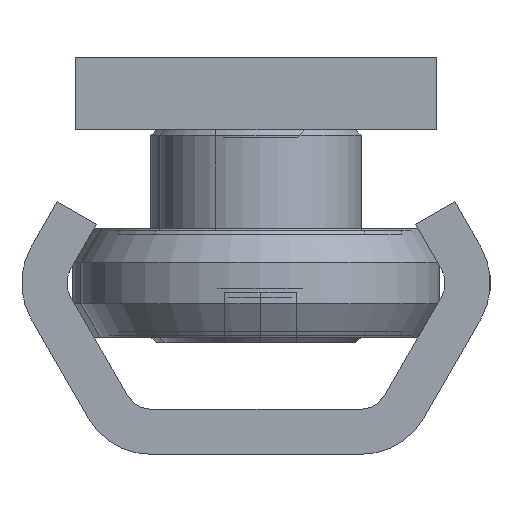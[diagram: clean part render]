
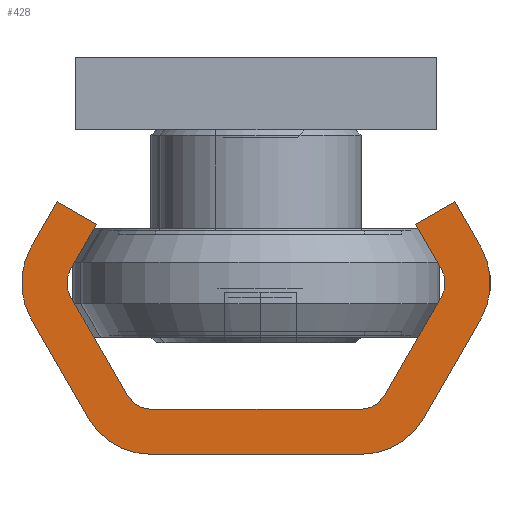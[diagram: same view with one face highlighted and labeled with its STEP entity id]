
A CAD part, left-side view. The second image highlights one B-rep face of the part: STEP entity #428.
In plain terms, the highlighted planar face has unit normal (-1, 0, 0).
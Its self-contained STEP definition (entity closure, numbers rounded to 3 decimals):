
#428 = ADVANCED_FACE( '', ( #956 ), #957, .F. );
#956 = FACE_OUTER_BOUND( '', #1706, .T. );
#957 = PLANE( '', #1707 );
#1706 = EDGE_LOOP( '', ( #2794, #2795, #2796, #2797, #2798, #2799, #2800, #2801, #2802, #2803, #2804, #2805, #2806, #2807, #2808, #2809, #2810, #2811, #2812, #2813 ) );
#1707 = AXIS2_PLACEMENT_3D( '', #2814, #2815, #2816 );
#2794 = ORIENTED_EDGE( '', *, *, #3959, .F. );
#2795 = ORIENTED_EDGE( '', *, *, #3960, .F. );
#2796 = ORIENTED_EDGE( '', *, *, #3961, .F. );
#2797 = ORIENTED_EDGE( '', *, *, #3737, .F. );
#2798 = ORIENTED_EDGE( '', *, *, #3962, .F. );
#2799 = ORIENTED_EDGE( '', *, *, #3786, .F. );
#2800 = ORIENTED_EDGE( '', *, *, #3963, .F. );
#2801 = ORIENTED_EDGE( '', *, *, #3964, .T. );
#2802 = ORIENTED_EDGE( '', *, *, #3965, .F. );
#2803 = ORIENTED_EDGE( '', *, *, #3966, .T. );
#2804 = ORIENTED_EDGE( '', *, *, #3937, .F. );
#2805 = ORIENTED_EDGE( '', *, *, #3967, .T. );
#2806 = ORIENTED_EDGE( '', *, *, #3968, .F. );
#2807 = ORIENTED_EDGE( '', *, *, #3796, .T. );
#2808 = ORIENTED_EDGE( '', *, *, #3969, .F. );
#2809 = ORIENTED_EDGE( '', *, *, #3970, .F. );
#2810 = ORIENTED_EDGE( '', *, *, #3971, .F. );
#2811 = ORIENTED_EDGE( '', *, *, #3972, .F. );
#2812 = ORIENTED_EDGE( '', *, *, #3973, .F. );
#2813 = ORIENTED_EDGE( '', *, *, #3974, .F. );
#2814 = CARTESIAN_POINT( '', ( 0., -5.825, -4. ) );
#2815 = DIRECTION( '', ( 1., 0., 0. ) );
#2816 = DIRECTION( '', ( 0., 0., -1. ) );
#3737 = EDGE_CURVE( '', #4261, #4262, #4263, .T. );
#3786 = EDGE_CURVE( '', #4349, #4350, #4351, .T. );
#3796 = EDGE_CURVE( '', #4365, #4366, #4367, .T. );
#3937 = EDGE_CURVE( '', #4605, #4606, #4607, .T. );
#3959 = EDGE_CURVE( '', #4636, #4637, #4638, .T. );
#3960 = EDGE_CURVE( '', #4639, #4636, #4640, .T. );
#3961 = EDGE_CURVE( '', #4262, #4639, #4641, .T. );
#3962 = EDGE_CURVE( '', #4350, #4261, #4642, .T. );
#3963 = EDGE_CURVE( '', #4643, #4349, #4644, .T. );
#3964 = EDGE_CURVE( '', #4643, #4645, #4646, .T. );
#3965 = EDGE_CURVE( '', #4647, #4645, #4648, .T. );
#3966 = EDGE_CURVE( '', #4647, #4606, #4649, .T. );
#3967 = EDGE_CURVE( '', #4605, #4650, #4651, .T. );
#3968 = EDGE_CURVE( '', #4365, #4650, #4652, .T. );
#3969 = EDGE_CURVE( '', #4653, #4366, #4654, .T. );
#3970 = EDGE_CURVE( '', #4655, #4653, #4656, .T. );
#3971 = EDGE_CURVE( '', #4657, #4655, #4658, .T. );
#3972 = EDGE_CURVE( '', #4659, #4657, #4660, .T. );
#3973 = EDGE_CURVE( '', #4661, #4659, #4662, .T. );
#3974 = EDGE_CURVE( '', #4637, #4661, #4663, .T. );
#4261 = VERTEX_POINT( '', #5013 );
#4262 = VERTEX_POINT( '', #5014 );
#4263 = CIRCLE( '', #5015, 4. );
#4349 = VERTEX_POINT( '', #5121 );
#4350 = VERTEX_POINT( '', #5122 );
#4351 = LINE( '', #5123, #5124 );
#4365 = VERTEX_POINT( '', #5140 );
#4366 = VERTEX_POINT( '', #5141 );
#4367 = CIRCLE( '', #5142, 1.5 );
#4605 = VERTEX_POINT( '', #5420 );
#4606 = VERTEX_POINT( '', #5421 );
#4607 = LINE( '', #5422, #5423 );
#4636 = VERTEX_POINT( '', #5461 );
#4637 = VERTEX_POINT( '', #5462 );
#4638 = LINE( '', #5463, #5464 );
#4639 = VERTEX_POINT( '', #5465 );
#4640 = CIRCLE( '', #5466, 4. );
#4641 = LINE( '', #5467, #5468 );
#4642 = LINE( '', #5469, #5470 );
#4643 = VERTEX_POINT( '', #5471 );
#4644 = LINE( '', #5472, #5473 );
#4645 = VERTEX_POINT( '', #5474 );
#4646 = CIRCLE( '', #5475, 1.5 );
#4647 = VERTEX_POINT( '', #5476 );
#4648 = LINE( '', #5477, #5478 );
#4649 = CIRCLE( '', #5479, 1.5 );
#4650 = VERTEX_POINT( '', #5480 );
#4651 = CIRCLE( '', #5481, 1.5 );
#4652 = LINE( '', #5482, #5483 );
#4653 = VERTEX_POINT( '', #5484 );
#4654 = LINE( '', #5485, #5486 );
#4655 = VERTEX_POINT( '', #5487 );
#4656 = LINE( '', #5488, #5489 );
#4657 = VERTEX_POINT( '', #5490 );
#4658 = LINE( '', #5491, #5492 );
#4659 = VERTEX_POINT( '', #5493 );
#4660 = CIRCLE( '', #5494, 4. );
#4661 = VERTEX_POINT( '', #5495 );
#4662 = LINE( '', #5496, #5497 );
#4663 = CIRCLE( '', #5498, 4. );
#5013 = CARTESIAN_POINT( '', ( 0., 12.464, -11.5 ) );
#5014 = CARTESIAN_POINT( '', ( 0., 12.464, -7.5 ) );
#5015 = AXIS2_PLACEMENT_3D( '', #5908, #5909, #5910 );
#5121 = CARTESIAN_POINT( '', ( 0., 8.856, -12.75 ) );
#5122 = CARTESIAN_POINT( '', ( 0., 11.021, -14. ) );
#5123 = CARTESIAN_POINT( '', ( 0., 8.856, -12.75 ) );
#5124 = VECTOR( '', #5991, 1000. );
#5140 = CARTESIAN_POINT( '', ( 0., -10.299, -8.75 ) );
#5141 = CARTESIAN_POINT( '', ( 0., -10.299, -10.25 ) );
#5142 = AXIS2_PLACEMENT_3D( '', #6006, #6007, #6008 );
#5420 = CARTESIAN_POINT( '', ( 0., -5.825, -2.5 ) );
#5421 = CARTESIAN_POINT( '', ( 0., 5.825, -2.5 ) );
#5422 = CARTESIAN_POINT( '', ( 0., -5.825, -2.5 ) );
#5423 = VECTOR( '', #6268, 1000. );
#5461 = CARTESIAN_POINT( '', ( 0., 5.825, 0. ) );
#5462 = CARTESIAN_POINT( '', ( 0., -5.825, 0. ) );
#5463 = CARTESIAN_POINT( '', ( 0., 5.825, 0. ) );
#5464 = VECTOR( '', #6293, 1000. );
#5465 = CARTESIAN_POINT( '', ( 0., 9.289, -2. ) );
#5466 = AXIS2_PLACEMENT_3D( '', #6294, #6295, #6296 );
#5467 = CARTESIAN_POINT( '', ( 0., 12.464, -7.5 ) );
#5468 = VECTOR( '', #6297, 1000. );
#5469 = CARTESIAN_POINT( '', ( 0., 11.021, -14. ) );
#5470 = VECTOR( '', #6298, 1000. );
#5471 = CARTESIAN_POINT( '', ( 0., 10.299, -10.25 ) );
#5472 = CARTESIAN_POINT( '', ( 0., 10.299, -10.25 ) );
#5473 = VECTOR( '', #6299, 1000. );
#5474 = CARTESIAN_POINT( '', ( 0., 10.299, -8.75 ) );
#5475 = AXIS2_PLACEMENT_3D( '', #6300, #6301, #6302 );
#5476 = CARTESIAN_POINT( '', ( 0., 7.124, -3.25 ) );
#5477 = CARTESIAN_POINT( '', ( 0., 7.124, -3.25 ) );
#5478 = VECTOR( '', #6303, 1000. );
#5479 = AXIS2_PLACEMENT_3D( '', #6304, #6305, #6306 );
#5480 = CARTESIAN_POINT( '', ( 0., -7.124, -3.25 ) );
#5481 = AXIS2_PLACEMENT_3D( '', #6307, #6308, #6309 );
#5482 = CARTESIAN_POINT( '', ( 0., -10.299, -8.75 ) );
#5483 = VECTOR( '', #6310, 1000. );
#5484 = CARTESIAN_POINT( '', ( 0., -8.856, -12.75 ) );
#5485 = CARTESIAN_POINT( '', ( 0., -8.856, -12.75 ) );
#5486 = VECTOR( '', #6311, 1000. );
#5487 = CARTESIAN_POINT( '', ( 0., -11.021, -14. ) );
#5488 = CARTESIAN_POINT( '', ( 0., -11.021, -14. ) );
#5489 = VECTOR( '', #6312, 1000. );
#5490 = CARTESIAN_POINT( '', ( 0., -12.464, -11.5 ) );
#5491 = CARTESIAN_POINT( '', ( 0., -12.464, -11.5 ) );
#5492 = VECTOR( '', #6313, 1000. );
#5493 = CARTESIAN_POINT( '', ( 0., -12.464, -7.5 ) );
#5494 = AXIS2_PLACEMENT_3D( '', #6314, #6315, #6316 );
#5495 = CARTESIAN_POINT( '', ( 0., -9.289, -2. ) );
#5496 = CARTESIAN_POINT( '', ( 0., -9.289, -2. ) );
#5497 = VECTOR( '', #6317, 1000. );
#5498 = AXIS2_PLACEMENT_3D( '', #6318, #6319, #6320 );
#5908 = CARTESIAN_POINT( '', ( 0., 9., -9.5 ) );
#5909 = DIRECTION( '', ( 1., 0., 0. ) );
#5910 = DIRECTION( '', ( 0., 0., -1. ) );
#5991 = DIRECTION( '', ( 0., 0.866, -0.5 ) );
#6006 = CARTESIAN_POINT( '', ( 0., -9., -9.5 ) );
#6007 = DIRECTION( '', ( 1., 0., 0. ) );
#6008 = DIRECTION( '', ( 0., 0., -1. ) );
#6268 = DIRECTION( '', ( 0., 1., 0. ) );
#6293 = DIRECTION( '', ( 0., -1., 0. ) );
#6294 = CARTESIAN_POINT( '', ( 0., 5.825, -4. ) );
#6295 = DIRECTION( '', ( 1., 0., 0. ) );
#6296 = DIRECTION( '', ( 0., 0., -1. ) );
#6297 = DIRECTION( '', ( 0., -0.5, 0.866 ) );
#6298 = DIRECTION( '', ( 0., 0.5, 0.866 ) );
#6299 = DIRECTION( '', ( 0., -0.5, -0.866 ) );
#6300 = CARTESIAN_POINT( '', ( 0., 9., -9.5 ) );
#6301 = DIRECTION( '', ( 1., 0., 0. ) );
#6302 = DIRECTION( '', ( 0., 0., -1. ) );
#6303 = DIRECTION( '', ( 0., 0.5, -0.866 ) );
#6304 = CARTESIAN_POINT( '', ( 0., 5.825, -4. ) );
#6305 = DIRECTION( '', ( 1., 0., 0. ) );
#6306 = DIRECTION( '', ( 0., 0., -1. ) );
#6307 = CARTESIAN_POINT( '', ( 0., -5.825, -4. ) );
#6308 = DIRECTION( '', ( 1., 0., 0. ) );
#6309 = DIRECTION( '', ( 0., 0., -1. ) );
#6310 = DIRECTION( '', ( 0., 0.5, 0.866 ) );
#6311 = DIRECTION( '', ( 0., -0.5, 0.866 ) );
#6312 = DIRECTION( '', ( 0., 0.866, 0.5 ) );
#6313 = DIRECTION( '', ( 0., 0.5, -0.866 ) );
#6314 = CARTESIAN_POINT( '', ( 0., -9., -9.5 ) );
#6315 = DIRECTION( '', ( 1., 0., 0. ) );
#6316 = DIRECTION( '', ( 0., 0., -1. ) );
#6317 = DIRECTION( '', ( 0., -0.5, -0.866 ) );
#6318 = CARTESIAN_POINT( '', ( 0., -5.825, -4. ) );
#6319 = DIRECTION( '', ( 1., 0., 0. ) );
#6320 = DIRECTION( '', ( 0., 0., -1. ) );
